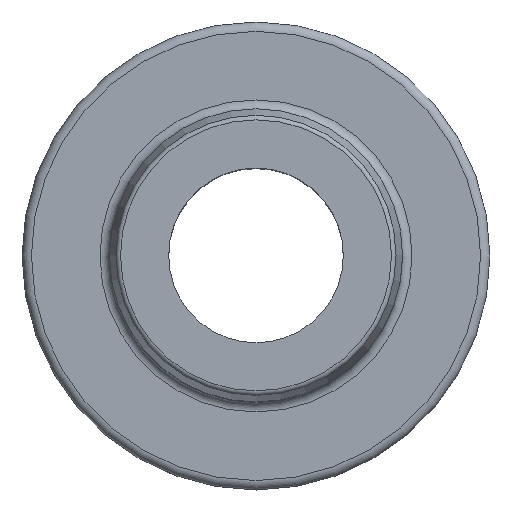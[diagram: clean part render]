
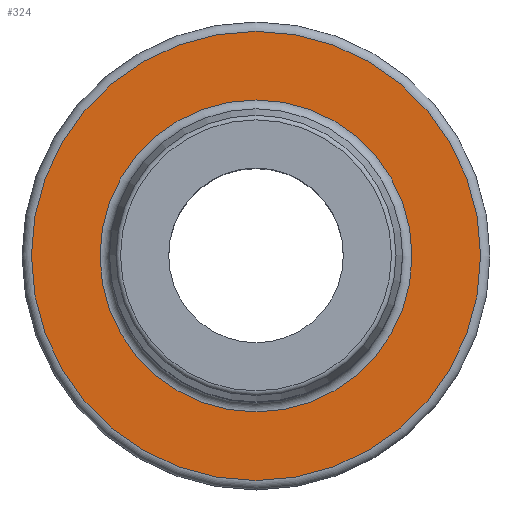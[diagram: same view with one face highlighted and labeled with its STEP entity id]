
A CAD part, top view. The second image highlights one B-rep face of the part: STEP entity #324.
In plain terms, the highlighted planar face has unit normal (0, 0, 1).
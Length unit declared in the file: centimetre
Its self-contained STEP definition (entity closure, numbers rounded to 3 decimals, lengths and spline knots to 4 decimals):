
#109=PLANE('',#357);
#126=VERTEX_POINT('',#483);
#128=VERTEX_POINT('',#488);
#148=CIRCLE('',#355,1.27);
#150=CIRCLE('',#358,1.8288);
#170=EDGE_CURVE('',#126,#126,#148,.T.);
#172=EDGE_CURVE('',#128,#128,#150,.T.);
#201=ORIENTED_EDGE('',*,*,#172,.F.);
#202=ORIENTED_EDGE('',*,*,#170,.F.);
#245=EDGE_LOOP('',(#201));
#246=EDGE_LOOP('',(#202));
#289=FACE_BOUND('',#245,.T.);
#290=FACE_BOUND('',#246,.T.);
#324=ADVANCED_FACE('',(#289,#290),#109,.T.);
#355=AXIS2_PLACEMENT_3D('',#482,#410,#411);
#357=AXIS2_PLACEMENT_3D('',#486,#414,$);
#358=AXIS2_PLACEMENT_3D('',#487,#415,#416);
#410=DIRECTION('',(0.,0.,1.));
#411=DIRECTION('',(0.,-1.27,0.));
#414=DIRECTION('',(0.,0.,1.));
#415=DIRECTION('',(0.,0.,-1.));
#416=DIRECTION('',(0.,-1.829,0.));
#482=CARTESIAN_POINT('',(0.,0.,-2.6416));
#483=CARTESIAN_POINT('',(0.,1.27,-2.6416));
#486=CARTESIAN_POINT('',(0.,0.9525,-2.6416));
#487=CARTESIAN_POINT('',(0.,0.,-2.6416));
#488=CARTESIAN_POINT('',(0.,1.8288,-2.6416));
